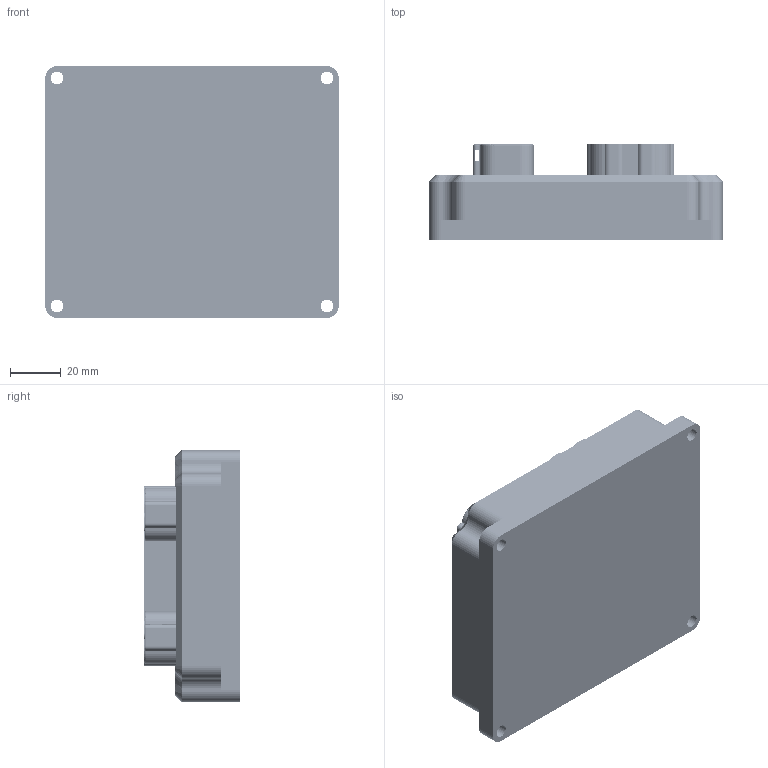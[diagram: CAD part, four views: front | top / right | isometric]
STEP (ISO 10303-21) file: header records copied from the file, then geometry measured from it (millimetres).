
FILE_DESCRIPTION (( 'STEP AP214' ), '1' );
FILE_NAME ('Dash Controller.STEP', '2018-06-18T16:49:49', ( '' ), ( '' ), 'SwSTEP 2.0', 'SolidWorks 2014', '' );
FILE_SCHEMA (( 'AUTOMOTIVE_DESIGN' ));
Length unit declared in the file: inch
Products named in the file (7): Part1^Dash Controller; 95893A715_THREAD-FORMING TORX SCREW FOR PLASTICS_95893A715; Dash Controller Enclosure; c-dt15-6p-99-3d_1; Part13^Dash Controller; c-drc22-50p01-b-3d; Dash Controller
Assembly tree (15 placements, depth 2):
  Part13^Dash Controller
  Dash Controller
    c-drc22-50p01-b-3d
    c-dt15-6p-99-3d_1  x2
    Dash Controller Enclosure
    95893A715_THREAD-FORMING TORX SCREW FOR PLASTICS_95893A715  x10
    Part1^Dash Controller
Bounding box: 115.31 x 37.67 x 98.88 mm (x, y, z)
Volume: 269345.6 mm3; surface area: 117297.4 mm2
Topology: 15 solids, 15 shells, 4576 faces, 11548 edges, 7410 vertices
Faces by surface type: cylinder 1852, plane 1277, cone 655, bspline 512, torus 264, sphere 16
Entity records: 170710 total; most frequent: CARTESIAN_POINT 68903, ORIENTED_EDGE 16866, DIRECTION 14207, EDGE_CURVE 8433, AXIS2_PLACEMENT_3D 5426, VERTEX_POINT 5387, EDGE_LOOP 3878, FACE_OUTER_BOUND 3446
